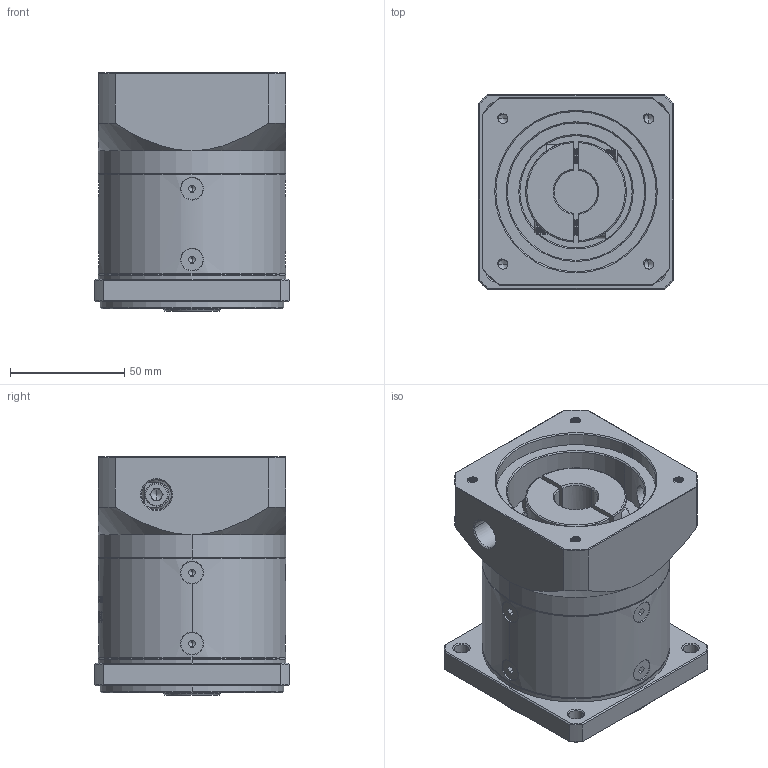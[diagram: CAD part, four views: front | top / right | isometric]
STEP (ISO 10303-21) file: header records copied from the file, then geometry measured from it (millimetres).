
FILE_DESCRIPTION (( 'STEP AP214' ), '1' );
FILE_NAME ('ZF80-K15-L1-19-70-90-M5.step', '2022-09-16T05:28:31', ( '' ), ( 'Microsoft' ), 'SwSTEP 2.0', 'SolidWorks 2016', '' );
FILE_SCHEMA (( 'AUTOMOTIVE_DESIGN' ));
Length unit declared in the file: millimetre
Products named in the file (1): ZF80-K15-L1-19-70-90-M5
Bounding box: 85 x 85 x 104 mm (x, y, z)
Volume: 515698.8 mm3; surface area: 84352.9 mm2
Topology: 13 solids, 13 shells, 1923 faces, 4994 edges, 3163 vertices
Faces by surface type: plane 884, cylinder 381, cone 331, bspline 310, torus 17
Entity records: 101494 total; most frequent: CARTESIAN_POINT 36710, ORIENTED_EDGE 9932, DIRECTION 7867, EDGE_CURVE 4966, VERTEX_POINT 3163, VECTOR 2709, LINE 2709, AXIS2_PLACEMENT_3D 2579
